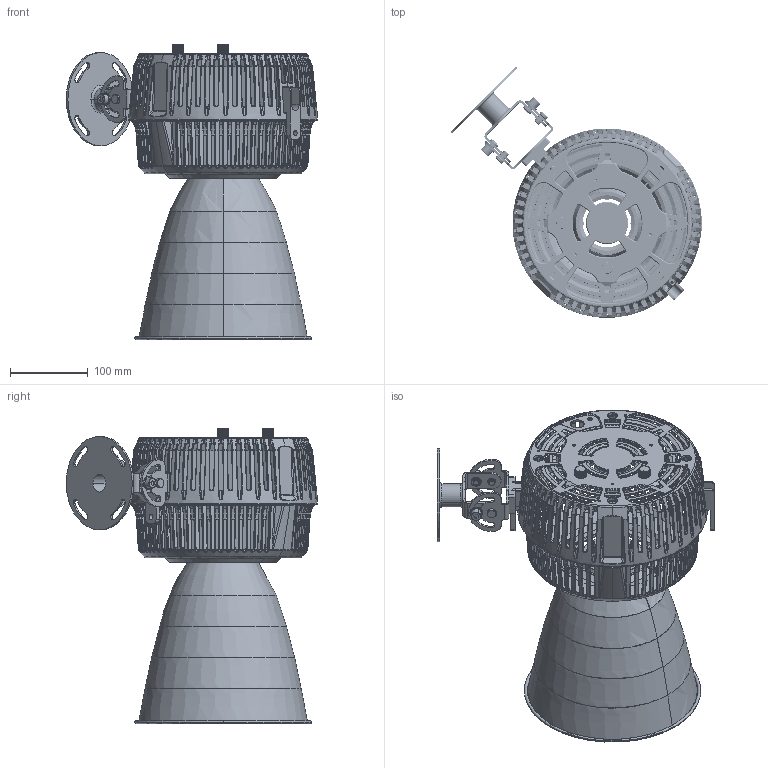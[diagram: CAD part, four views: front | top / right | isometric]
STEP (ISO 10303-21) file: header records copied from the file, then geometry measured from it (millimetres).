
FILE_DESCRIPTION (( 'STEP AP214' ), '1' );
FILE_NAME ('W2KN-PVT-Fixture.STEP', '2024-01-31T02:11:15', ( '' ), ( '' ), 'SwSTEP 2.0', 'SolidWorks 2022', '' );
FILE_SCHEMA (( 'AUTOMOTIVE_DESIGN' ));
Length unit declared in the file: millimetre
Products named in the file (17): WASHER ID4.2,OD10,T=1___; 5022640_A1_Single Arm Axis, L=15mm___; 5022496_X2_Yoke Adapter___; REFLECTOR-30___; 5022499_X2_Single Arm Pivot Base___; 5022498_X1_Single Arm Pivot___; 5021926_A1_KNOB, 18T, OD=14.9, ID=6, L=10MM___; 5022530-2022-01-10___; SCREW, M8 L8 CAP HEAD, HEX SOCKET, SUS, BLACK___; 5022531_X1_BOTTOM HOUSING FOR W2K&A2K; 5022497_X1_Single Arm Base___; PIVOT Mount___; 5022645-XXX_A1_REFLECTOR-30 FOR W2K___; ID8,OD16,T1.5 WASHER___; 5022642_A2_C Circlip, ID=7.4mm___; SCREW, PAN HEAD SUS-304, M4.0 x L5mm___; W2KN-PVT-Fixture
Assembly tree (29 placements, depth 3):
  W2KN-PVT-Fixture
    5022531_X1_BOTTOM HOUSING FOR W2K&A2K
    5022496_X2_Yoke Adapter___  x2
    5022530-2022-01-10___
    5021926_A1_KNOB, 18T, OD=14.9, ID=6, L=10MM___  x2
    SCREW, M8 L8 CAP HEAD, HEX SOCKET, SUS, BLACK___
    PIVOT Mount___
      5022497_X1_Single Arm Base___
      5022498_X1_Single Arm Pivot___
      5022640_A1_Single Arm Axis, L=15mm___  x2
      5022642_A2_C Circlip, ID=7.4mm___  x2
      SCREW, M8 L8 CAP HEAD, HEX SOCKET, SUS, BLACK___  x2
      ID8,OD16,T1.5 WASHER___  x2
    5022499_X2_Single Arm Pivot Base___
    REFLECTOR-30___
      5022645-XXX_A1_REFLECTOR-30 FOR W2K___
      SCREW, PAN HEAD SUS-304, M4.0 x L5mm___  x4
      WASHER ID4.2,OD10,T=1___  x4
Bounding box: 323.66 x 323.65 x 380.3 mm (x, y, z)
Volume: 581270.2 mm3; surface area: 650722.1 mm2
Topology: 27 solids, 27 shells, 5796 faces, 15347 edges, 9423 vertices
Faces by surface type: bspline 2305, plane 1340, cylinder 1214, torus 477, cone 460
Entity records: 305053 total; most frequent: CARTESIAN_POINT 170784, ORIENTED_EDGE 27132, DIRECTION 17531, EDGE_CURVE 13566, VERTEX_POINT 8247, AXIS2_PLACEMENT_3D 7518, B_SPLINE_CURVE_WITH_KNOTS 6286, EDGE_LOOP 5371
